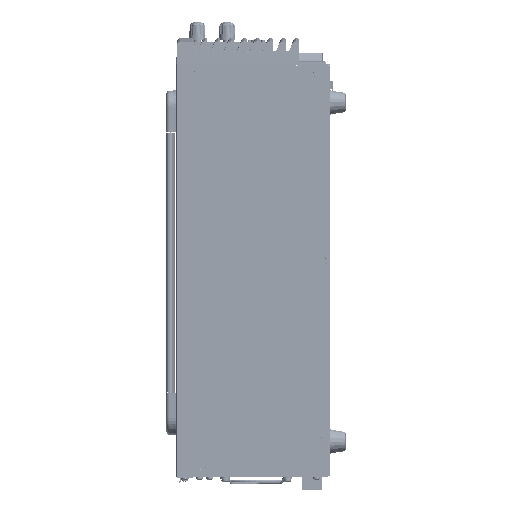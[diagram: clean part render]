
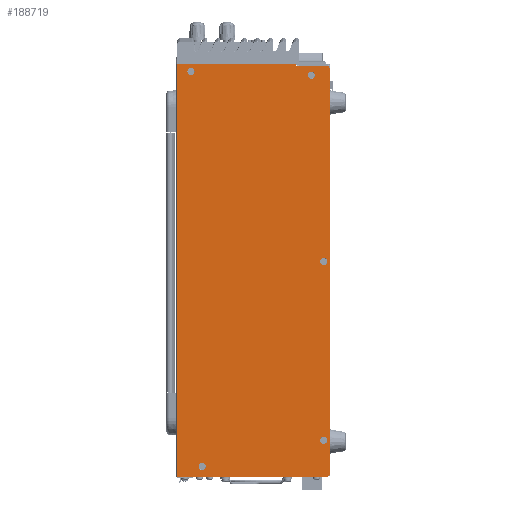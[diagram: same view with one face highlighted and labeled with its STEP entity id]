
A CAD part, left-side view. The second image highlights one B-rep face of the part: STEP entity #188719.
In plain terms, the highlighted planar face has unit normal (-1, 0, 0).
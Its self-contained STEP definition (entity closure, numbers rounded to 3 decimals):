
#186660=CARTESIAN_POINT('',(-177.2,2.5,-330.5));
#186661=DIRECTION('',(1.,0.,0.));
#186662=DIRECTION('',(0.,-1.,0.));
#186663=AXIS2_PLACEMENT_3D('',#186660,#186661,#186662);
#186665=DIRECTION('',(0.,1.,0.));
#186666=VECTOR('',#186665,120.5);
#186667=CARTESIAN_POINT('',(-177.2,2.5,-332.5));
#186668=LINE('',#186667,#186666);
#186669=DIRECTION('',(0.,-1.,0.));
#186670=VECTOR('',#186669,25.1);
#186671=CARTESIAN_POINT('',(-177.2,27.6,-1.3));
#186672=LINE('',#186671,#186670);
#186673=CARTESIAN_POINT('',(-177.2,2.5,-3.3));
#186674=DIRECTION('',(1.,0.,0.));
#186675=DIRECTION('',(0.,0.,1.));
#186676=AXIS2_PLACEMENT_3D('',#186673,#186674,#186675);
#186678=CARTESIAN_POINT('',(-177.2,5.2,-303.));
#186679=DIRECTION('',(-1.,0.,0.));
#186680=DIRECTION('',(0.,1.,0.));
#186681=AXIS2_PLACEMENT_3D('',#186678,#186679,#186680);
#186683=CARTESIAN_POINT('',(-177.2,5.2,-303.));
#186684=DIRECTION('',(-1.,0.,0.));
#186685=DIRECTION('',(0.,-1.,0.));
#186686=AXIS2_PLACEMENT_3D('',#186683,#186684,#186685);
#186688=CARTESIAN_POINT('',(-177.2,5.2,-159.));
#186689=DIRECTION('',(-1.,0.,0.));
#186690=DIRECTION('',(0.,1.,0.));
#186691=AXIS2_PLACEMENT_3D('',#186688,#186689,#186690);
#186693=CARTESIAN_POINT('',(-177.2,5.2,-159.));
#186694=DIRECTION('',(-1.,0.,0.));
#186695=DIRECTION('',(0.,-1.,0.));
#186696=AXIS2_PLACEMENT_3D('',#186693,#186694,#186695);
#186698=CARTESIAN_POINT('',(-177.2,15.2,-9.));
#186699=DIRECTION('',(-1.,0.,0.));
#186700=DIRECTION('',(0.,1.,0.));
#186701=AXIS2_PLACEMENT_3D('',#186698,#186699,#186700);
#186703=CARTESIAN_POINT('',(-177.2,15.2,-9.));
#186704=DIRECTION('',(-1.,0.,0.));
#186705=DIRECTION('',(0.,-1.,0.));
#186706=AXIS2_PLACEMENT_3D('',#186703,#186704,#186705);
#186708=CARTESIAN_POINT('',(-177.2,103.,-324.));
#186709=DIRECTION('',(-1.,0.,0.));
#186710=DIRECTION('',(0.,1.,0.));
#186711=AXIS2_PLACEMENT_3D('',#186708,#186709,#186710);
#186713=CARTESIAN_POINT('',(-177.2,103.,-324.));
#186714=DIRECTION('',(-1.,0.,0.));
#186715=DIRECTION('',(0.,-1.,0.));
#186716=AXIS2_PLACEMENT_3D('',#186713,#186714,#186715);
#186718=CARTESIAN_POINT('',(-177.2,112.,-6.));
#186719=DIRECTION('',(-1.,0.,0.));
#186720=DIRECTION('',(0.,1.,0.));
#186721=AXIS2_PLACEMENT_3D('',#186718,#186719,#186720);
#186723=CARTESIAN_POINT('',(-177.2,112.,-6.));
#186724=DIRECTION('',(-1.,0.,0.));
#186725=DIRECTION('',(0.,-1.,0.));
#186726=AXIS2_PLACEMENT_3D('',#186723,#186724,#186725);
#186736=DIRECTION('',(0.,0.,1.));
#186737=VECTOR('',#186736,327.2);
#186738=CARTESIAN_POINT('',(-177.2,0.5,-330.5));
#186739=LINE('',#186738,#186737);
#186752=DIRECTION('',(0.,0.,1.));
#186753=VECTOR('',#186752,1.3);
#186754=CARTESIAN_POINT('',(-177.2,27.6,-1.3));
#186755=LINE('',#186754,#186753);
#186764=DIRECTION('',(0.,1.,0.));
#186765=VECTOR('',#186764,95.4);
#186766=CARTESIAN_POINT('',(-177.2,27.6,0.));
#186767=LINE('',#186766,#186765);
#186777=DIRECTION('',(0.,0.,-1.));
#186778=VECTOR('',#186777,332.5);
#186779=CARTESIAN_POINT('',(-177.2,123.,0.));
#186780=LINE('',#186779,#186778);
#188220=CARTESIAN_POINT('',(-177.2,0.5,-330.5));
#188221=CARTESIAN_POINT('',(-177.2,2.5,-332.5));
#188222=VERTEX_POINT('',#188220);
#188223=VERTEX_POINT('',#188221);
#188224=CARTESIAN_POINT('',(-177.2,123.,-332.5));
#188225=VERTEX_POINT('',#188224);
#188226=CARTESIAN_POINT('',(-177.2,123.,0.));
#188227=VERTEX_POINT('',#188226);
#188228=CARTESIAN_POINT('',(-177.2,27.6,0.));
#188229=VERTEX_POINT('',#188228);
#188230=CARTESIAN_POINT('',(-177.2,27.6,-1.3));
#188231=VERTEX_POINT('',#188230);
#188232=CARTESIAN_POINT('',(-177.2,2.5,-1.3));
#188233=VERTEX_POINT('',#188232);
#188234=CARTESIAN_POINT('',(-177.2,0.5,-3.3));
#188235=VERTEX_POINT('',#188234);
#188236=CARTESIAN_POINT('',(-177.2,8.093,-303.));
#188237=CARTESIAN_POINT('',(-177.2,2.307,-303.));
#188238=VERTEX_POINT('',#188236);
#188239=VERTEX_POINT('',#188237);
#188240=CARTESIAN_POINT('',(-177.2,8.093,-159.));
#188241=CARTESIAN_POINT('',(-177.2,2.307,-159.));
#188242=VERTEX_POINT('',#188240);
#188243=VERTEX_POINT('',#188241);
#188244=CARTESIAN_POINT('',(-177.2,18.093,-9.));
#188245=CARTESIAN_POINT('',(-177.2,12.307,-9.));
#188246=VERTEX_POINT('',#188244);
#188247=VERTEX_POINT('',#188245);
#188248=CARTESIAN_POINT('',(-177.2,105.893,-324.));
#188249=CARTESIAN_POINT('',(-177.2,100.107,-324.));
#188250=VERTEX_POINT('',#188248);
#188251=VERTEX_POINT('',#188249);
#188252=CARTESIAN_POINT('',(-177.2,114.893,-6.));
#188253=CARTESIAN_POINT('',(-177.2,109.107,-6.));
#188254=VERTEX_POINT('',#188252);
#188255=VERTEX_POINT('',#188253);
#188666=CARTESIAN_POINT('',(-177.2,123.,0.));
#188667=DIRECTION('',(-1.,0.,0.));
#188668=DIRECTION('',(0.,-1.,0.));
#188669=AXIS2_PLACEMENT_3D('',#188666,#188667,#188668);
#188670=PLANE('',#188669);
#188672=ORIENTED_EDGE('',*,*,#188671,.T.);
#188674=ORIENTED_EDGE('',*,*,#188673,.T.);
#188676=ORIENTED_EDGE('',*,*,#188675,.F.);
#188678=ORIENTED_EDGE('',*,*,#188677,.F.);
#188680=ORIENTED_EDGE('',*,*,#188679,.F.);
#188682=ORIENTED_EDGE('',*,*,#188681,.T.);
#188684=ORIENTED_EDGE('',*,*,#188683,.T.);
#188686=ORIENTED_EDGE('',*,*,#188685,.F.);
#188687=EDGE_LOOP('',(#188672,#188674,#188676,#188678,#188680,#188682,#188684,
#188686));
#188688=FACE_OUTER_BOUND('',#188687,.F.);
#188690=ORIENTED_EDGE('',*,*,#188689,.T.);
#188692=ORIENTED_EDGE('',*,*,#188691,.T.);
#188693=EDGE_LOOP('',(#188690,#188692));
#188694=FACE_BOUND('',#188693,.F.);
#188696=ORIENTED_EDGE('',*,*,#188695,.T.);
#188698=ORIENTED_EDGE('',*,*,#188697,.T.);
#188699=EDGE_LOOP('',(#188696,#188698));
#188700=FACE_BOUND('',#188699,.F.);
#188702=ORIENTED_EDGE('',*,*,#188701,.T.);
#188704=ORIENTED_EDGE('',*,*,#188703,.T.);
#188705=EDGE_LOOP('',(#188702,#188704));
#188706=FACE_BOUND('',#188705,.F.);
#188708=ORIENTED_EDGE('',*,*,#188707,.T.);
#188710=ORIENTED_EDGE('',*,*,#188709,.T.);
#188711=EDGE_LOOP('',(#188708,#188710));
#188712=FACE_BOUND('',#188711,.F.);
#188714=ORIENTED_EDGE('',*,*,#188713,.T.);
#188716=ORIENTED_EDGE('',*,*,#188715,.T.);
#188717=EDGE_LOOP('',(#188714,#188716));
#188718=FACE_BOUND('',#188717,.F.);
#188719=ADVANCED_FACE('',(#188688,#188694,#188700,#188706,#188712,#188718),
#188670,.T.);
#186664=CIRCLE('',#186663,2.);
#186677=CIRCLE('',#186676,2.);
#186682=CIRCLE('',#186681,2.893);
#186687=CIRCLE('',#186686,2.893);
#186692=CIRCLE('',#186691,2.893);
#186697=CIRCLE('',#186696,2.893);
#186702=CIRCLE('',#186701,2.893);
#186707=CIRCLE('',#186706,2.893);
#186712=CIRCLE('',#186711,2.893);
#186717=CIRCLE('',#186716,2.893);
#186722=CIRCLE('',#186721,2.893);
#186727=CIRCLE('',#186726,2.893);
#188671=EDGE_CURVE('',#188222,#188223,#186664,.T.);
#188673=EDGE_CURVE('',#188223,#188225,#186668,.T.);
#188675=EDGE_CURVE('',#188227,#188225,#186780,.T.);
#188677=EDGE_CURVE('',#188229,#188227,#186767,.T.);
#188679=EDGE_CURVE('',#188231,#188229,#186755,.T.);
#188681=EDGE_CURVE('',#188231,#188233,#186672,.T.);
#188683=EDGE_CURVE('',#188233,#188235,#186677,.T.);
#188685=EDGE_CURVE('',#188222,#188235,#186739,.T.);
#188689=EDGE_CURVE('',#188238,#188239,#186682,.T.);
#188691=EDGE_CURVE('',#188239,#188238,#186687,.T.);
#188695=EDGE_CURVE('',#188242,#188243,#186692,.T.);
#188697=EDGE_CURVE('',#188243,#188242,#186697,.T.);
#188701=EDGE_CURVE('',#188246,#188247,#186702,.T.);
#188703=EDGE_CURVE('',#188247,#188246,#186707,.T.);
#188707=EDGE_CURVE('',#188250,#188251,#186712,.T.);
#188709=EDGE_CURVE('',#188251,#188250,#186717,.T.);
#188713=EDGE_CURVE('',#188254,#188255,#186722,.T.);
#188715=EDGE_CURVE('',#188255,#188254,#186727,.T.);
